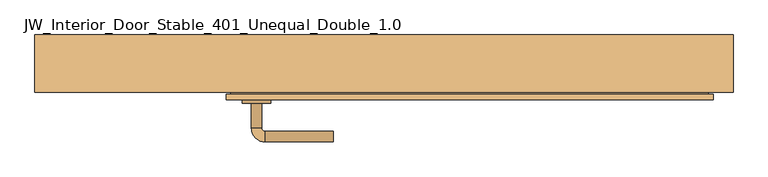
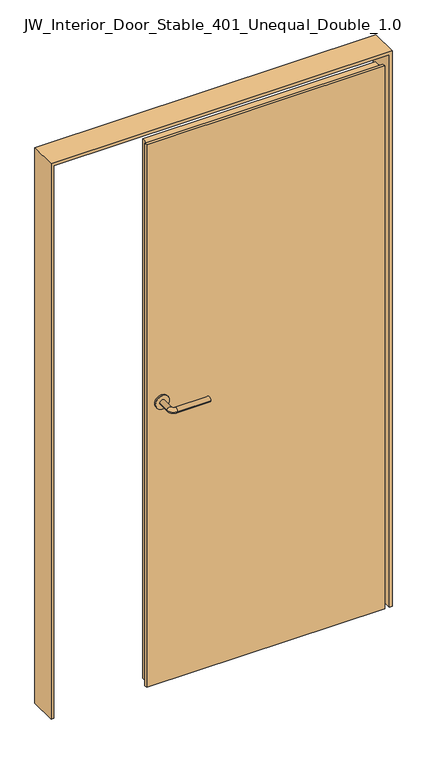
"""IFC4 building model written with IfcOpenShell, lengths in millimetres: door geometry, JW_Interior_Door_Stable_401_Unequal_Double_1.0 : 1290 x 2090 mm - M13 (M10+30) x M21."""

from ifc_helpers import new_model, si_unit, point, frame, origin, place, context, project, spatial, polyline, circle_curve, ellipse_curve, trimmed, outline, extrude, faceted_brep, source, transform, mapped, element, save
from ifc_brep_helpers import plane_surface, cylinder_surface, revolved_surface, advanced_brep


def jw_interior_door_stable_401_unequal_double_1_0_001e30e6(model_context):
    return source(origin(), model_context, "Body", "SolidModel", [
        advanced_brep(
        [(-248.0, -69.5, 1075.0), (-198.0, -69.5, 1075.0), (-214.0346073, -69.5, 1075.0), (-231.9653927, -69.5, 1075.0), (-248.0, -63.5, 1075.0), (-198.0, -63.5, 1075.0), (-231.9653927, -112.4627146, 1075.0), (-214.0346073, -112.4627146, 1075.0), (-208.0, -136.4281073, 1075.0), (-208.0, -118.4973219, 1075.0), (-89.0, -118.4973219, 1075.0), (-89.0, -136.4281073, 1075.0)],
        [
            (0, 1, circle_curve(frame((-223.0, -69.5, 1075.0), z_axis=(0.0, -1.0, 0.0), x_axis=(1.0, 0.0, 0.0)), 25.0)),
            (1, 0, circle_curve(frame((-223.0, -69.5, 1075.0), z_axis=(0.0, -1.0, 0.0), x_axis=(1.0, 0.0, 0.0)), 25.0)),
            (2, 3, circle_curve(frame((-223.0, -69.5, 1075.0), z_axis=(0.0, 1.0, 0.0), x_axis=(-1.0, 0.0, 0.0)), 8.9653927)),
            (3, 2, circle_curve(frame((-223.0, -69.5, 1075.0), z_axis=(0.0, 1.0, 0.0), x_axis=(-1.0, 0.0, 0.0)), 8.9653927)),
            (4, 5, circle_curve(frame((-223.0, -63.5, 1075.0), z_axis=(0.0, 1.0, 0.0), x_axis=(1.0, 0.0, 0.0)), 25.0)),
            (5, 4, circle_curve(frame((-223.0, -63.5, 1075.0), z_axis=(0.0, 1.0, 0.0), x_axis=(1.0, 0.0, 0.0)), 25.0)),
            (0, 4),
            (5, 1),
            (3, 6),
            (6, 7, circle_curve(frame((-223.0, -112.4627146, 1075.0), z_axis=(0.0, 1.0, 0.0), x_axis=(-1.0, 0.0, 0.0)), 8.9653927)),
            (7, 2),
            (7, 6, circle_curve(frame((-223.0, -112.4627146, 1075.0), z_axis=(0.0, 1.0, 0.0), x_axis=(-1.0, 0.0, 0.0)), 8.9653927)),
            (6, 8, circle_curve(frame((-208.0, -112.4627146, 1075.0), z_axis=(0.0, 0.0, 1.0), x_axis=(-1.0, 0.0, 0.0)), 23.9653927)),
            (8, 9, circle_curve(frame((-208.0, -127.4627146, 1075.0), z_axis=(-1.0, 0.0, 0.0), x_axis=(0.0, -1.0, 0.0)), 8.9653927)),
            (9, 7, circle_curve(frame((-208.0, -112.4627146, 1075.0), z_axis=(0.0, 0.0, -1.0), x_axis=(-1.0, 0.0, 0.0)), 6.0346073)),
            (9, 8, circle_curve(frame((-208.0, -127.4627146, 1075.0), z_axis=(-1.0, 0.0, 0.0), x_axis=(0.0, -1.0, 0.0)), 8.9653927)),
            (10, 11, circle_curve(frame((-89.0, -127.4627146, 1075.0), z_axis=(1.0, 0.0, 0.0), x_axis=(0.0, -1.0, 0.0)), 8.9653927)),
            (11, 10, circle_curve(frame((-89.0, -127.4627146, 1075.0), z_axis=(1.0, 0.0, 0.0), x_axis=(0.0, -1.0, 0.0)), 8.9653927)),
            (8, 11),
            (10, 9),
        ],
        [
            plane_surface(frame((-198.0, -69.5, 1075.0), z_axis=(0.0, -1.0, 0.0), x_axis=(0.0, 0.0, -1.0))),
            plane_surface(frame((-198.0, -63.5, 1075.0), z_axis=(0.0, 1.0, 0.0), x_axis=(0.0, 0.0, 1.0))),
            cylinder_surface(frame((-223.0, -69.5, 1075.0), z_axis=(0.0, 1.0, 0.0), x_axis=(1.0, 0.0, 0.0)), 25.0),
            cylinder_surface(frame((-223.0, -69.5, 1075.0), z_axis=(0.0, 1.0, 0.0), x_axis=(-1.0, 0.0, 0.0)), 8.9653927),
            revolved_surface(trimmed(ellipse_curve(frame((-223.0, -112.4627146, 1075.0), z_axis=(0.0, -1.0, 0.0), x_axis=(-1.0, 0.0, 0.0)), 8.9653927, 8.9653927), [point((-214.0346073, -112.4627146, 1075.0))], [point((-231.9653927, -112.4627146, 1075.0))], True, "CARTESIAN"), (-208.0, -112.4627146, 1075.0), (0.0, 0.0, -1.0)),
            revolved_surface(trimmed(ellipse_curve(frame((-223.0, -112.4627146, 1075.0), z_axis=(0.0, -1.0, 0.0), x_axis=(-1.0, 0.0, 0.0)), 8.9653927, 8.9653927), [point((-231.9653927, -112.4627146, 1075.0))], [point((-214.0346073, -112.4627146, 1075.0))], True, "CARTESIAN"), (-208.0, -112.4627146, 1075.0), (0.0, 0.0, -1.0)),
            plane_surface(frame((-89.0, -127.4627146, 1075.0), z_axis=(1.0, 0.0, 0.0), x_axis=(0.0, 0.0, 1.0))),
            cylinder_surface(frame((-208.0, -127.4627146, 1075.0), z_axis=(-1.0, 0.0, 0.0), x_axis=(0.0, -1.0, 0.0)), 8.9653927),
        ],
        [
            (0, [[1, 2], [3, 4]]),
            (1, [[5, 6]]),
            (2, [[7, -6, 8, -1]]),
            (2, [[-8, -5, -7, -2]]),
            (3, [[-4, 9, 10, 11]]),
            (3, [[12, -9, -3, -11]]),
            (4, [[13, 14, 15, -10]]),
            (5, [[-15, 16, -13, -12]]),
            (6, [[17, 18]]),
            (7, [[19, -17, 20, -14]]),
            (7, [[-20, -18, -19, -16]]),
        ],
    ),
        faceted_brep([(564.9021956, -23.5, 18.0), (-265.9021956, -23.5, 18.0), (-265.9021956, -23.5, 2058.0), (564.9021956, -23.5, 2058.0), (567.0, -53.5, 2058.0), (567.0, -53.5, 18.0), (-268.0, -53.5, 18.0), (-268.0, -53.5, 2058.0), (-276.0, -63.5, 2064.0), (-276.0, -63.5, 12.0), (575.0, -63.5, 12.0), (575.0, -63.5, 2064.0), (575.0, -53.5, 12.0), (575.0, -53.5, 2064.0), (-276.0, -53.5, 12.0), (-276.0, -53.5, 2064.0)], [[[0, 1, 2, 3]], [[3, 4, 5, 0]], [[1, 6, 7, 2]], [[6, 1, 0, 5]], [[8, 9, 10, 11]], [[10, 12, 13, 11]], [[9, 14, 12, 10]], [[8, 15, 14, 9]], [[14, 15, 13, 12], [7, 6, 5, 4]], [[11, 13, 15, 8]], [[4, 3, 2, 7]]]),
        extrude(outline(polyline([(0.0, 610.0), (2100.0, 610.0), (2100.0, -610.0), (0.0, -610.0), (0.0, -600.0), (2090.0, -600.0), (2090.0, 600.0), (0.0, 600.0), (0.0, 610.0)])), frame((0.0, -50.0, 0.0), z_axis=(0.0, 1.0, 0.0), x_axis=(0.0, 0.0, 1.0)), (0.0, 0.0, 1.0), 100.0),
    ])


if __name__ == "__main__":
    model = new_model("IFC4")
    model_context = context("Model", 3, world=origin())
    ifc_project = project(units=[si_unit("LENGTHUNIT", "METRE", prefix="MILLI")], contexts=[model_context])
    site = spatial("IfcSite", under=ifc_project)
    building = spatial("IfcBuilding", under=site)
    placement = place(None, origin())
    jw_interior_door_stable_401_unequal_double_1_0_shape = jw_interior_door_stable_401_unequal_double_1_0_001e30e6(model_context)
    element("IfcDoor", 1, ObjectType="JW_Interior_Door_Stable_401_Unequal_Double_1.0 : 1290 x 2090 mm - M13 (M10+30) x M21", at=placement, inside=building, context=model_context, shape_type="MappedRepresentation", body=[
        mapped(jw_interior_door_stable_401_unequal_double_1_0_shape, transform((0.0, 0.0, 0.0), x_axis=(1.0, 0.0, 0.0), y_axis=(0.0, 1.0, 0.0), z_axis=(0.0, 0.0, 1.0))),
    ])
    save(model, "model.ifc")
